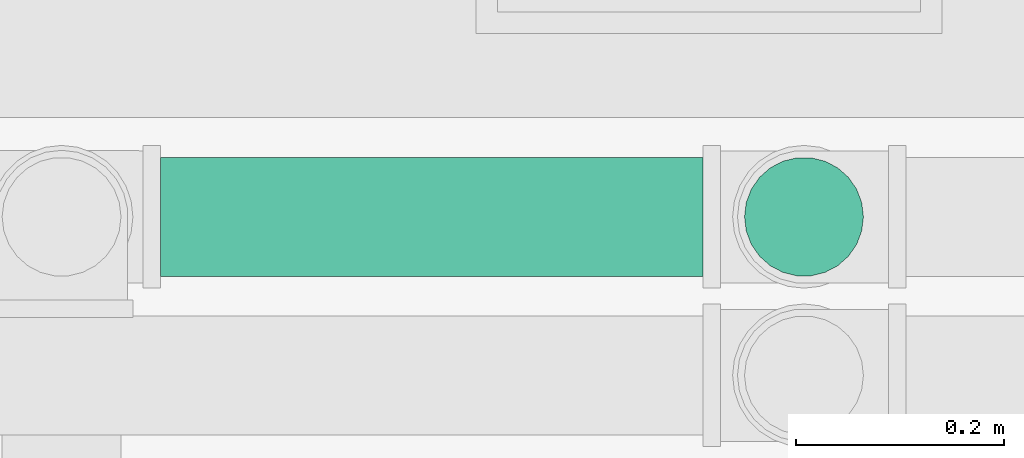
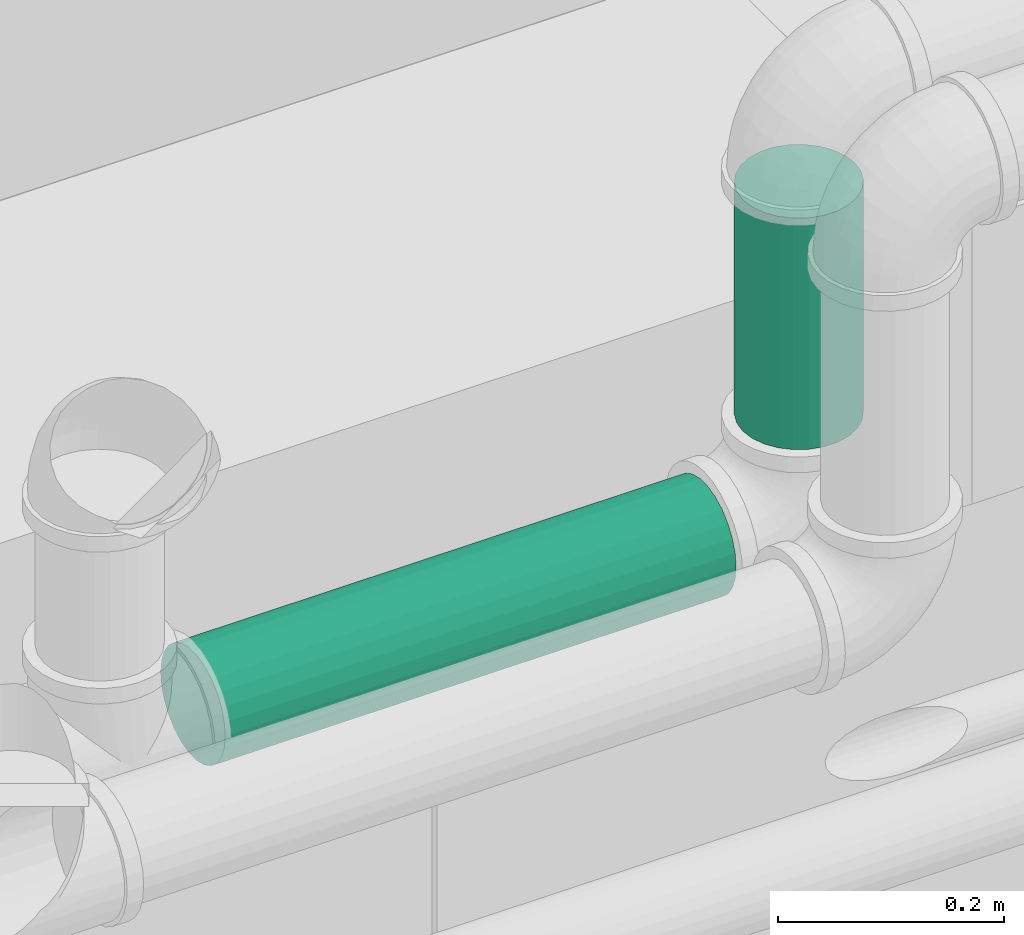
# One storey, part 71 of 108: 2 pipe segments.
"""IFC4 building model written with IfcOpenShell, lengths in feet."""

from ifc_helpers import new_model, entity, si_unit, converted_unit, derived_unit, direction, frame, frame_2d, origin, origin_2d_with_axis, place, context, subcontext, project, spatial, circle, extrude, type_object, element, save


model = new_model("IFC4")

# Units and contexts
model_context = context("Model", 3, precision=0.0001, world=origin(), true_north=direction((6.12303176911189e-17, 1.0)))
body_context = subcontext(model_context, "Body", "Model", "MODEL_VIEW")
ifc_project = project(units=[converted_unit("LENGTHUNIT", "FOOT", entity("IfcRatioMeasure", 0.3048), si_unit("LENGTHUNIT", "METRE"), dimensions=[1, 0, 0, 0, 0, 0, 0]), converted_unit("AREAUNIT", "SQUARE FOOT", entity("IfcRatioMeasure", 0.09290304), si_unit("AREAUNIT", "SQUARE_METRE"), dimensions=[2, 0, 0, 0, 0, 0, 0]), converted_unit("VOLUMEUNIT", "CUBIC FOOT", entity("IfcRatioMeasure", 0.028316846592), si_unit("VOLUMEUNIT", "CUBIC_METRE"), dimensions=[3, 0, 0, 0, 0, 0, 0]), converted_unit("PLANEANGLEUNIT", "DEGREE", entity("IfcRatioMeasure", 0.0174532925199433), si_unit("PLANEANGLEUNIT", "RADIAN"), dimensions=[0, 0, 0, 0, 0, 0, 0]), si_unit("MASSUNIT", "GRAM", prefix="KILO"), derived_unit("MASSDENSITYUNIT", [(si_unit("MASSUNIT", "GRAM", prefix="KILO"), 1), (si_unit("LENGTHUNIT", "METRE"), -3)]), si_unit("TIMEUNIT", "SECOND"), si_unit("FREQUENCYUNIT", "HERTZ"), si_unit("THERMODYNAMICTEMPERATUREUNIT", "DEGREE_CELSIUS"), derived_unit("THERMALTRANSMITTANCEUNIT", [(si_unit("MASSUNIT", "GRAM", prefix="KILO"), 1), (si_unit("THERMODYNAMICTEMPERATUREUNIT", "KELVIN"), -1), (si_unit("TIMEUNIT", "SECOND"), -3)]), derived_unit("VOLUMETRICFLOWRATEUNIT", [(si_unit("LENGTHUNIT", "METRE"), 3), (si_unit("TIMEUNIT", "SECOND"), -1)]), si_unit("ELECTRICCURRENTUNIT", "AMPERE"), si_unit("ELECTRICVOLTAGEUNIT", "VOLT"), si_unit("POWERUNIT", "WATT"), si_unit("FORCEUNIT", "NEWTON"), si_unit("ILLUMINANCEUNIT", "LUX"), si_unit("LUMINOUSFLUXUNIT", "LUMEN"), si_unit("LUMINOUSINTENSITYUNIT", "CANDELA"), derived_unit("USERDEFINED", [(si_unit("MASSUNIT", "GRAM", prefix="KILO"), -1), (si_unit("LENGTHUNIT", "METRE"), -2), (si_unit("TIMEUNIT", "SECOND"), 3), (si_unit("LUMINOUSFLUXUNIT", "LUMEN"), 1)]), derived_unit("LINEARVELOCITYUNIT", [(si_unit("LENGTHUNIT", "METRE"), 1), (si_unit("TIMEUNIT", "SECOND"), -1)]), si_unit("PRESSUREUNIT", "PASCAL"), derived_unit("USERDEFINED", [(si_unit("LENGTHUNIT", "METRE"), -2), (si_unit("MASSUNIT", "GRAM", prefix="KILO"), 1), (si_unit("TIMEUNIT", "SECOND"), -2)])], contexts=[model_context])

# Site, building, storey
site_placement = place(None, origin())
site = spatial("IfcSite", under=ifc_project, at=site_placement, Name="Default", CompositionType="ELEMENT")
building_placement = place(site_placement, origin())
building = spatial("IfcBuilding", under=site, at=building_placement, CompositionType="ELEMENT")
storey_placement = place(building_placement, frame((0.0, 0.0, 168.0)))
storey = spatial("IfcBuildingStorey", under=building, at=storey_placement, Name="Level 15", CompositionType="ELEMENT", Elevation=168.0)

# Pipe segments
pipe_segment_type = type_object("IfcPipeSegmentType", Name="Pipe Types:Hydronic", PredefinedType="NOTDEFINED")
pipe_segment_1_placement = place(storey_placement, frame((-30.4037628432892, 11.9370127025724, 9.34893283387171)))
element("IfcPipeSegment", 1, at=pipe_segment_1_placement, inside=storey, type_object=pipe_segment_type, Name="Pipe Types:Hydronic", ObjectType="Pipe Types:Hydronic", PredefinedType="NOTDEFINED", context=body_context, shape_type="SweptSolid", body=[
    extrude(circle(Radius=0.1875, at=frame_2d((1.77635683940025e-15, 0.0), x_axis=(1.0, 0.0))), frame((0.0, 0.19273383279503, 0.192733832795), z_axis=(1.0, 0.0, 0.0), x_axis=(0.0, -1.0, 0.0)), (0.0, 0.0, 1.0), 1.71104737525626),
])
pipe_segment_2_placement = place(storey_placement, frame((-28.5675065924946, 11.9370127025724, 9.86277343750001)))
element("IfcPipeSegment", 2, at=pipe_segment_2_placement, inside=storey, type_object=pipe_segment_type, Name="Pipe Types:Hydronic", ObjectType="Pipe Types:Hydronic", PredefinedType="NOTDEFINED", context=body_context, shape_type="SweptSolid", body=[
    extrude(circle(Radius=0.1875, at=origin_2d_with_axis()), frame((0.192733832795, 0.192733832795, 0.0), z_axis=(0.0, 0.0, 1.0), x_axis=(-1.0, 0.0, 0.0)), (0.0, 0.0, 1.0), 0.819283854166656),
])

save(model, "model.ifc")
